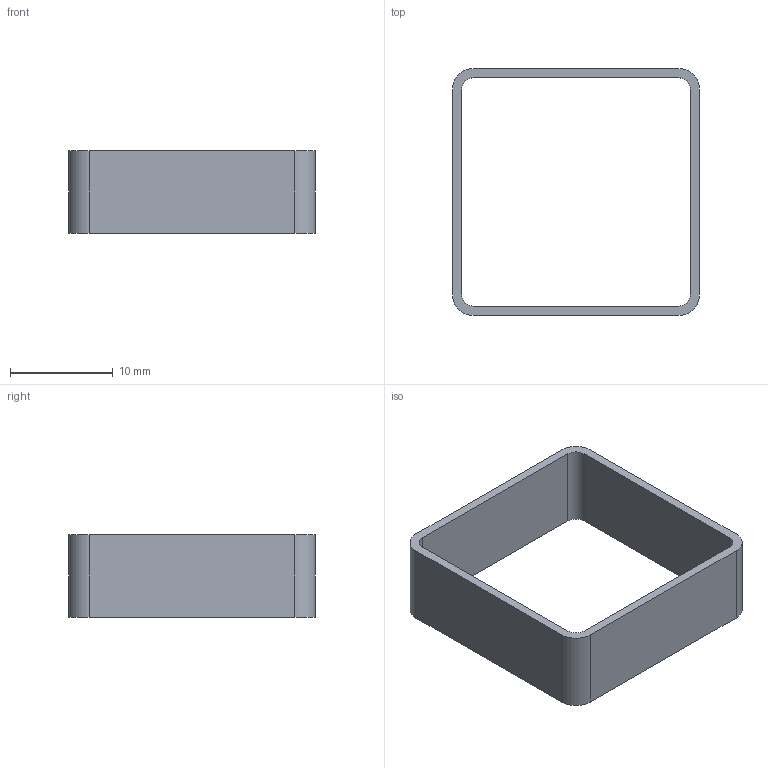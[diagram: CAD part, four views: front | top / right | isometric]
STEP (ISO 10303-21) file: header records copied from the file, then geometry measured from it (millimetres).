
FILE_DESCRIPTION(('FreeCAD Model'),'2;1');
FILE_NAME('Open CASCADE Shape Model','2026-09-29T21:58:29',('Author'),( ''),'Open CASCADE STEP processor 7.8','FreeCAD','Unknown');
FILE_SCHEMA(('AUTOMOTIVE_DESIGN { 1 0 10303 214 1 1 1 1 }'));
Length unit declared in the file: millimetre
Products named in the file (1): flow_wall_coupon
Bounding box: 24 x 24 x 8 mm (x, y, z)
Volume: 646.1 mm3; surface area: 1597.4 mm2
Topology: 1 solids, 1 shells, 18 faces, 48 edges, 32 vertices
Faces by surface type: plane 10, cylinder 8
Entity records: 582 total; most frequent: DIRECTION 102, CARTESIAN_POINT 99, ORIENTED_EDGE 96, EDGE_CURVE 48, AXIS2_PLACEMENT_3D 35, VERTEX_POINT 32, LINE 32, VECTOR 32
